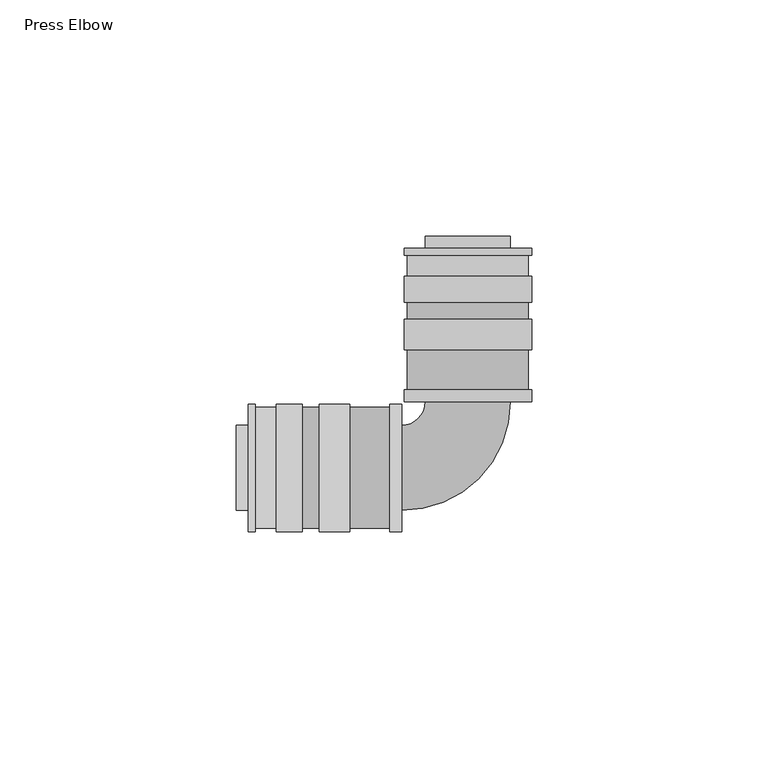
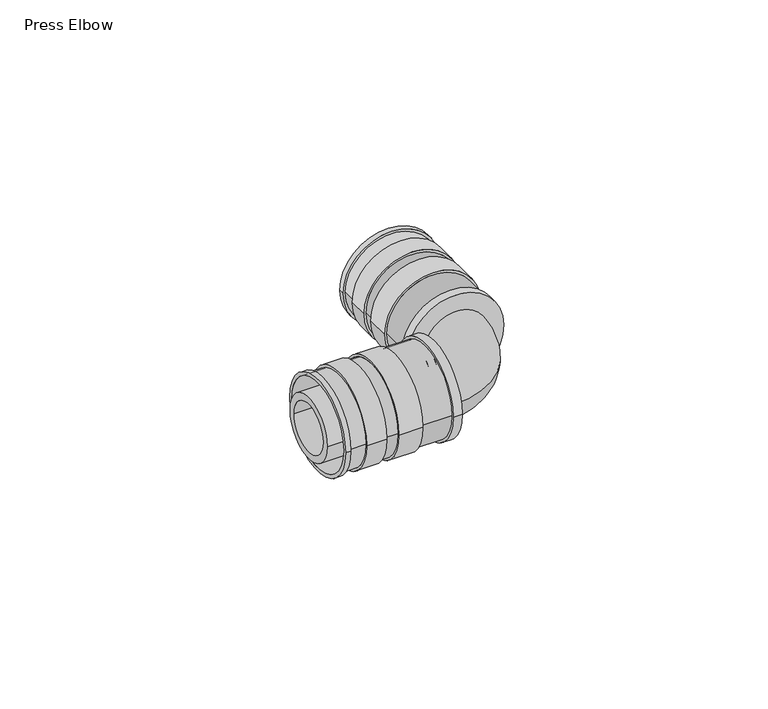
"""IFC4 building model written with IfcOpenShell, lengths in millimetres: pipe fitting geometry, Press Elbow : Superpipe Press Elbow."""

from ifc_helpers import new_model, si_unit, point, frame, origin, origin_2d, place, context, project, spatial, polyline, circle_curve, ellipse_curve, trimmed, segment, composite_curve, outline, extrude, source, transform, mapped, element, save
from ifc_brep_helpers import plane_surface, cylinder_surface, revolved_surface, advanced_brep


def press_elbow_2132446e(model_context):
    return source(origin(), model_context, "Body", "SolidModel", [
        advanced_brep(
        [(-12.8, 16.5, 0.0), (12.8, 16.5, 0.0), (12.5, 16.5, 0.0), (-12.5, 16.5, 0.0), (13.5, 46.5, 0.0), (-13.5, 46.5, 0.0), (12.5, 46.5, 0.0), (-12.5, 46.5, 0.0), (13.5, 45.0, 0.0), (-13.5, 45.0, 0.0), (13.5, 25.0, 0.0), (-13.5, 25.0, 0.0), (-13.5, 31.5, 0.0), (13.5, 31.5, 0.0), (13.5, 35.0, 0.0), (-13.5, 35.0, 0.0), (-13.5, 40.5, 0.0), (13.5, 40.5, 0.0), (12.8, 25.0, 0.0), (-12.8, 25.0, 0.0), (12.8, 31.5, 0.0), (-12.8, 31.5, 0.0), (12.8, 35.0, 0.0), (-12.8, 35.0, 0.0), (-12.8, 45.0, 0.0), (12.8, 45.0, 0.0), (-12.8, 40.5, 0.0), (12.8, 40.5, 0.0)],
        [
            (0, 1, circle_curve(frame((0.0, 16.5, 0.0), z_axis=(0.0, -1.0, 0.0), x_axis=(-1.0, 0.0, 0.0)), 12.8)),
            (1, 0, circle_curve(frame((0.0, 16.5, 0.0), z_axis=(0.0, -1.0, 0.0), x_axis=(-1.0, 0.0, 0.0)), 12.8)),
            (2, 3, circle_curve(frame((0.0, 16.5, 0.0), z_axis=(0.0, 1.0, 0.0), x_axis=(-1.0, 0.0, 0.0)), 12.5)),
            (3, 2, circle_curve(frame((0.0, 16.5, 0.0), z_axis=(0.0, 1.0, 0.0), x_axis=(-1.0, 0.0, 0.0)), 12.5)),
            (4, 5, circle_curve(frame((0.0, 46.5, 0.0), z_axis=(0.0, 1.0, 0.0), x_axis=(-1.0, 0.0, 0.0)), 13.5)),
            (5, 4, circle_curve(frame((0.0, 46.5, 0.0), z_axis=(0.0, 1.0, 0.0), x_axis=(-1.0, 0.0, 0.0)), 13.5)),
            (6, 7, circle_curve(frame((0.0, 46.5, 0.0), z_axis=(0.0, -1.0, 0.0), x_axis=(-1.0, 0.0, 0.0)), 12.5)),
            (7, 6, circle_curve(frame((0.0, 46.5, 0.0), z_axis=(0.0, -1.0, 0.0), x_axis=(-1.0, 0.0, 0.0)), 12.5)),
            (4, 8),
            (8, 9, circle_curve(frame((0.0, 45.0, 0.0), z_axis=(0.0, 1.0, 0.0), x_axis=(-1.0, 0.0, 0.0)), 13.5)),
            (9, 5),
            (10, 11, circle_curve(frame((0.0, 25.0, 0.0), z_axis=(0.0, 1.0, 0.0), x_axis=(-1.0, 0.0, 0.0)), 13.5)),
            (11, 12),
            (12, 13, circle_curve(frame((0.0, 31.5, 0.0), z_axis=(0.0, -1.0, 0.0), x_axis=(-1.0, 0.0, 0.0)), 13.5)),
            (13, 10),
            (14, 15, circle_curve(frame((0.0, 35.0, 0.0), z_axis=(0.0, 1.0, 0.0), x_axis=(-1.0, 0.0, 0.0)), 13.5)),
            (15, 16),
            (16, 17, circle_curve(frame((0.0, 40.5, 0.0), z_axis=(0.0, -1.0, 0.0), x_axis=(-1.0, 0.0, 0.0)), 13.5)),
            (17, 14),
            (9, 8, circle_curve(frame((0.0, 45.0, 0.0), z_axis=(0.0, 1.0, 0.0), x_axis=(-1.0, 0.0, 0.0)), 13.5)),
            (11, 10, circle_curve(frame((0.0, 25.0, 0.0), z_axis=(0.0, 1.0, 0.0), x_axis=(-1.0, 0.0, 0.0)), 13.5)),
            (13, 12, circle_curve(frame((0.0, 31.5, 0.0), z_axis=(0.0, -1.0, 0.0), x_axis=(-1.0, 0.0, 0.0)), 13.5)),
            (15, 14, circle_curve(frame((0.0, 35.0, 0.0), z_axis=(0.0, 1.0, 0.0), x_axis=(-1.0, 0.0, 0.0)), 13.5)),
            (17, 16, circle_curve(frame((0.0, 40.5, 0.0), z_axis=(0.0, -1.0, 0.0), x_axis=(-1.0, 0.0, 0.0)), 13.5)),
            (3, 7),
            (6, 2),
            (18, 19, circle_curve(frame((0.0, 25.0, 0.0), z_axis=(0.0, 1.0, 0.0), x_axis=(-1.0, 0.0, 0.0)), 12.8)),
            (19, 18, circle_curve(frame((0.0, 25.0, 0.0), z_axis=(0.0, 1.0, 0.0), x_axis=(-1.0, 0.0, 0.0)), 12.8)),
            (18, 1),
            (0, 19),
            (20, 21, circle_curve(frame((0.0, 31.5, 0.0), z_axis=(0.0, -1.0, 0.0), x_axis=(-1.0, 0.0, 0.0)), 12.8)),
            (21, 20, circle_curve(frame((0.0, 31.5, 0.0), z_axis=(0.0, -1.0, 0.0), x_axis=(-1.0, 0.0, 0.0)), 12.8)),
            (22, 23, circle_curve(frame((0.0, 35.0, 0.0), z_axis=(0.0, 1.0, 0.0), x_axis=(-1.0, 0.0, 0.0)), 12.8)),
            (23, 22, circle_curve(frame((0.0, 35.0, 0.0), z_axis=(0.0, 1.0, 0.0), x_axis=(-1.0, 0.0, 0.0)), 12.8)),
            (21, 23),
            (22, 20),
            (24, 25, circle_curve(frame((0.0, 45.0, 0.0), z_axis=(0.0, 1.0, 0.0), x_axis=(1.0, 0.0, 0.0)), 12.8)),
            (25, 24, circle_curve(frame((0.0, 45.0, 0.0), z_axis=(0.0, 1.0, 0.0), x_axis=(1.0, 0.0, 0.0)), 12.8)),
            (26, 27, circle_curve(frame((0.0, 40.5, 0.0), z_axis=(0.0, -1.0, 0.0), x_axis=(1.0, 0.0, 0.0)), 12.8)),
            (27, 26, circle_curve(frame((0.0, 40.5, 0.0), z_axis=(0.0, -1.0, 0.0), x_axis=(1.0, 0.0, 0.0)), 12.8)),
            (25, 27),
            (26, 24),
        ],
        [
            plane_surface(frame((0.0, 16.5, 0.0), z_axis=(0.0, -1.0, 0.0), x_axis=(0.0, 0.0, 1.0))),
            plane_surface(frame((0.0, 46.5, 0.0), z_axis=(0.0, 1.0, 0.0), x_axis=(0.0, 0.0, 1.0))),
            cylinder_surface(frame((0.0, 16.5, 0.0), z_axis=(0.0, -1.0, 0.0), x_axis=(-1.0, 0.0, 0.0)), 13.5),
            revolved_surface(polyline([(-12.5, 46.5, 0.0), (-12.5, 16.5, 0.0)]), (0.0, 16.5, 0.0), (0.0, 1.0, 0.0)),
            plane_surface(frame((0.0, 25.0, 0.0), z_axis=(0.0, -1.0, 0.0), x_axis=(0.0, 0.0, 1.0))),
            cylinder_surface(frame((0.0, 16.5, 0.0), z_axis=(0.0, 1.0, 0.0), x_axis=(-1.0, 0.0, 0.0)), 12.8),
            plane_surface(frame((0.0, 31.5, 0.0), z_axis=(0.0, 1.0, 0.0), x_axis=(0.0, 0.0, 1.0))),
            plane_surface(frame((0.0, 35.0, 0.0), z_axis=(0.0, -1.0, 0.0), x_axis=(0.0, 0.0, 1.0))),
            cylinder_surface(frame((0.0, 31.5, 0.0), z_axis=(0.0, 1.0, 0.0), x_axis=(-1.0, 0.0, 0.0)), 12.8),
            plane_surface(frame((0.0, 45.0, 0.0), z_axis=(0.0, -1.0, 0.0), x_axis=(0.0, 0.0, 1.0))),
            plane_surface(frame((0.0, 40.5, 0.0), z_axis=(0.0, 1.0, 0.0), x_axis=(0.0, 0.0, 1.0))),
            cylinder_surface(frame((0.0, 45.0, 0.0), z_axis=(0.0, -1.0, 0.0), x_axis=(1.0, 0.0, 0.0)), 12.8),
        ],
        [
            (0, [[1, 2], [3, 4]]),
            (1, [[5, 6], [7, 8]]),
            (2, [[-5, 9, 10, 11]]),
            (2, [[12, 13, 14, 15]]),
            (2, [[16, 17, 18, 19]]),
            (2, [[-6, -11, 20, -9]]),
            (2, [[21, -15, 22, -13]]),
            (2, [[23, -19, 24, -17]]),
            (3, [[-4, 25, -7, 26]]),
            (3, [[-3, -26, -8, -25]]),
            (4, [[-12, -21], [27, 28]]),
            (5, [[-27, 29, -1, 30]]),
            (5, [[-28, -30, -2, -29]]),
            (6, [[-14, -22], [31, 32]]),
            (7, [[-16, -23], [33, 34]]),
            (8, [[-32, 35, -33, 36]]),
            (8, [[-31, -36, -34, -35]]),
            (9, [[-10, -20], [37, 38]]),
            (10, [[-18, -24], [39, 40]]),
            (11, [[-38, 41, -39, 42]]),
            (11, [[-37, -42, -40, -41]]),
        ],
    ),
        advanced_brep(
        [(-16.5, -12.8, 0.0), (-16.5, 12.8, 0.0), (-16.5, 12.5, 0.0), (-16.5, -12.5, 0.0), (-46.5, 13.5, 0.0), (-46.5, -13.5, 0.0), (-46.5, 12.5, 0.0), (-46.5, -12.5, 0.0), (-45.0, 13.5, 0.0), (-45.0, -13.5, 0.0), (-31.5, -13.5, 0.0), (-31.5, 13.5, 0.0), (-25.0, 13.5, 0.0), (-25.0, -13.5, 0.0), (-35.0, 13.5, 0.0), (-35.0, -13.5, 0.0), (-40.5, -13.5, 0.0), (-40.5, 13.5, 0.0), (-31.5, 12.8, 0.0), (-31.5, -12.8, 0.0), (-35.0, 12.8, 0.0), (-35.0, -12.8, 0.0), (-45.0, -12.8, 0.0), (-45.0, 12.8, 0.0), (-40.5, -12.8, 0.0), (-40.5, 12.8, 0.0), (-25.0, 12.8, 0.0), (-25.0, -12.8, 0.0)],
        [
            (0, 1, circle_curve(frame((-16.5, 0.0, 0.0), z_axis=(1.0, 0.0, 0.0), x_axis=(0.0, -1.0, 0.0)), 12.8)),
            (1, 0, circle_curve(frame((-16.5, 0.0, 0.0), z_axis=(1.0, 0.0, 0.0), x_axis=(0.0, -1.0, 0.0)), 12.8)),
            (2, 3, circle_curve(frame((-16.5, 0.0, 0.0), z_axis=(-1.0, 0.0, 0.0), x_axis=(0.0, -1.0, 0.0)), 12.5)),
            (3, 2, circle_curve(frame((-16.5, 0.0, 0.0), z_axis=(-1.0, 0.0, 0.0), x_axis=(0.0, -1.0, 0.0)), 12.5)),
            (4, 5, circle_curve(frame((-46.5, 0.0, 0.0), z_axis=(-1.0, 0.0, 0.0), x_axis=(0.0, -1.0, 0.0)), 13.5)),
            (5, 4, circle_curve(frame((-46.5, 0.0, 0.0), z_axis=(-1.0, 0.0, 0.0), x_axis=(0.0, -1.0, 0.0)), 13.5)),
            (6, 7, circle_curve(frame((-46.5, 0.0, 0.0), z_axis=(1.0, 0.0, 0.0), x_axis=(0.0, -1.0, 0.0)), 12.5)),
            (7, 6, circle_curve(frame((-46.5, 0.0, 0.0), z_axis=(1.0, 0.0, 0.0), x_axis=(0.0, -1.0, 0.0)), 12.5)),
            (3, 7),
            (6, 2),
            (4, 8),
            (8, 9, circle_curve(frame((-45.0, 0.0, 0.0), z_axis=(-1.0, 0.0, 0.0), x_axis=(0.0, -1.0, 0.0)), 13.5)),
            (9, 5),
            (10, 11, circle_curve(frame((-31.5, 0.0, 0.0), z_axis=(1.0, 0.0, 0.0), x_axis=(0.0, -1.0, 0.0)), 13.5)),
            (11, 12),
            (12, 13, circle_curve(frame((-25.0, 0.0, 0.0), z_axis=(-1.0, 0.0, 0.0), x_axis=(0.0, -1.0, 0.0)), 13.5)),
            (13, 10),
            (14, 15, circle_curve(frame((-35.0, 0.0, 0.0), z_axis=(-1.0, 0.0, 0.0), x_axis=(0.0, -1.0, 0.0)), 13.5)),
            (15, 16),
            (16, 17, circle_curve(frame((-40.5, 0.0, 0.0), z_axis=(1.0, 0.0, 0.0), x_axis=(0.0, -1.0, 0.0)), 13.5)),
            (17, 14),
            (9, 8, circle_curve(frame((-45.0, 0.0, 0.0), z_axis=(-1.0, 0.0, 0.0), x_axis=(0.0, -1.0, 0.0)), 13.5)),
            (11, 10, circle_curve(frame((-31.5, 0.0, 0.0), z_axis=(1.0, 0.0, 0.0), x_axis=(0.0, -1.0, 0.0)), 13.5)),
            (13, 12, circle_curve(frame((-25.0, 0.0, 0.0), z_axis=(-1.0, 0.0, 0.0), x_axis=(0.0, -1.0, 0.0)), 13.5)),
            (15, 14, circle_curve(frame((-35.0, 0.0, 0.0), z_axis=(-1.0, 0.0, 0.0), x_axis=(0.0, -1.0, 0.0)), 13.5)),
            (17, 16, circle_curve(frame((-40.5, 0.0, 0.0), z_axis=(1.0, 0.0, 0.0), x_axis=(0.0, -1.0, 0.0)), 13.5)),
            (18, 19, circle_curve(frame((-31.5, 0.0, 0.0), z_axis=(1.0, 0.0, 0.0), x_axis=(0.0, -1.0, 0.0)), 12.8)),
            (19, 18, circle_curve(frame((-31.5, 0.0, 0.0), z_axis=(1.0, 0.0, 0.0), x_axis=(0.0, -1.0, 0.0)), 12.8)),
            (20, 21, circle_curve(frame((-35.0, 0.0, 0.0), z_axis=(-1.0, 0.0, 0.0), x_axis=(0.0, -1.0, 0.0)), 12.8)),
            (21, 20, circle_curve(frame((-35.0, 0.0, 0.0), z_axis=(-1.0, 0.0, 0.0), x_axis=(0.0, -1.0, 0.0)), 12.8)),
            (19, 21),
            (20, 18),
            (22, 23, circle_curve(frame((-45.0, 0.0, 0.0), z_axis=(-1.0, 0.0, 0.0), x_axis=(0.0, 1.0, 0.0)), 12.8)),
            (23, 22, circle_curve(frame((-45.0, 0.0, 0.0), z_axis=(-1.0, 0.0, 0.0), x_axis=(0.0, 1.0, 0.0)), 12.8)),
            (24, 25, circle_curve(frame((-40.5, 0.0, 0.0), z_axis=(1.0, 0.0, 0.0), x_axis=(0.0, 1.0, 0.0)), 12.8)),
            (25, 24, circle_curve(frame((-40.5, 0.0, 0.0), z_axis=(1.0, 0.0, 0.0), x_axis=(0.0, 1.0, 0.0)), 12.8)),
            (23, 25),
            (24, 22),
            (26, 27, circle_curve(frame((-25.0, 0.0, 0.0), z_axis=(-1.0, 0.0, 0.0), x_axis=(0.0, -1.0, 0.0)), 12.8)),
            (27, 26, circle_curve(frame((-25.0, 0.0, 0.0), z_axis=(-1.0, 0.0, 0.0), x_axis=(0.0, -1.0, 0.0)), 12.8)),
            (26, 1),
            (0, 27),
        ],
        [
            plane_surface(frame((-16.5, 0.0, 0.0), z_axis=(1.0, 0.0, 0.0), x_axis=(0.0, 0.0, 1.0))),
            plane_surface(frame((-46.5, 0.0, 0.0), z_axis=(-1.0, 0.0, 0.0), x_axis=(0.0, 0.0, 1.0))),
            revolved_surface(polyline([(-46.5, -12.5, 0.0), (-16.5, -12.5, 0.0)]), (-16.5, 0.0, 0.0), (-1.0, 0.0, 0.0)),
            cylinder_surface(frame((-16.5, 0.0, 0.0), z_axis=(1.0, 0.0, 0.0), x_axis=(0.0, -1.0, 0.0)), 13.5),
            plane_surface(frame((-31.5, 0.0, 0.0), z_axis=(-1.0, 0.0, 0.0), x_axis=(0.0, 0.0, 1.0))),
            plane_surface(frame((-35.0, 0.0, 0.0), z_axis=(1.0, 0.0, 0.0), x_axis=(0.0, 0.0, 1.0))),
            cylinder_surface(frame((-31.5, 0.0, 0.0), z_axis=(-1.0, 0.0, 0.0), x_axis=(0.0, -1.0, 0.0)), 12.8),
            plane_surface(frame((-45.0, 0.0, 0.0), z_axis=(1.0, 0.0, 0.0), x_axis=(0.0, 0.0, 1.0))),
            plane_surface(frame((-40.5, 0.0, 0.0), z_axis=(-1.0, 0.0, 0.0), x_axis=(0.0, 0.0, 1.0))),
            cylinder_surface(frame((-45.0, 0.0, 0.0), z_axis=(1.0, 0.0, 0.0), x_axis=(0.0, 1.0, 0.0)), 12.8),
            plane_surface(frame((-25.0, 0.0, 0.0), z_axis=(1.0, 0.0, 0.0), x_axis=(0.0, 0.0, 1.0))),
            cylinder_surface(frame((-16.5, 0.0, 0.0), z_axis=(-1.0, 0.0, 0.0), x_axis=(0.0, -1.0, 0.0)), 12.8),
        ],
        [
            (0, [[1, 2], [3, 4]]),
            (1, [[5, 6], [7, 8]]),
            (2, [[-4, 9, -7, 10]]),
            (2, [[-3, -10, -8, -9]]),
            (3, [[-5, 11, 12, 13]]),
            (3, [[14, 15, 16, 17]]),
            (3, [[18, 19, 20, 21]]),
            (3, [[-6, -13, 22, -11]]),
            (3, [[23, -17, 24, -15]]),
            (3, [[25, -21, 26, -19]]),
            (4, [[-14, -23], [27, 28]]),
            (5, [[-18, -25], [29, 30]]),
            (6, [[-28, 31, -29, 32]]),
            (6, [[-27, -32, -30, -31]]),
            (7, [[-12, -22], [33, 34]]),
            (8, [[-20, -26], [35, 36]]),
            (9, [[-34, 37, -35, 38]]),
            (9, [[-33, -38, -36, -37]]),
            (10, [[-16, -24], [39, 40]]),
            (11, [[-39, 41, -1, 42]]),
            (11, [[-40, -42, -2, -41]]),
        ],
    ),
        extrude(outline(composite_curve([segment(trimmed(circle_curve(origin_2d(), 9.0), [point((0.0, 9.0))], [point((0.0, -9.0))], False, "CARTESIAN"), True, "CONTINUOUS"), segment(trimmed(circle_curve(origin_2d(), 9.0), [point((0.0, -9.0))], [point((0.0, 9.0))], False, "CARTESIAN"), True, "CONTINUOUS")], self_intersect=False), holes=[composite_curve([segment(trimmed(circle_curve(origin_2d(), 7.0), [point((0.0, 7.0))], [point((0.0, -7.0))], True, "CARTESIAN"), True, "CONTINUOUS"), segment(trimmed(circle_curve(origin_2d(), 7.0), [point((0.0, -7.0))], [point((0.0, 7.0))], True, "CARTESIAN"), True, "CONTINUOUS")], self_intersect=False)]), frame((0.0, 16.5, 0.0), z_axis=(0.0, 1.0, 0.0), x_axis=(0.0, 0.0, 1.0)), (0.0, 0.0, 1.0), 32.5),
        extrude(outline(composite_curve([segment(trimmed(circle_curve(origin_2d(), 13.5), [point((0.0, 13.5))], [point((0.0, -13.5))], False, "CARTESIAN"), True, "CONTINUOUS"), segment(trimmed(circle_curve(origin_2d(), 13.5), [point((0.0, -13.5))], [point((0.0, 13.5))], False, "CARTESIAN"), True, "CONTINUOUS")], self_intersect=False), holes=[composite_curve([segment(trimmed(circle_curve(origin_2d(), 7.0), [point((0.0, 7.0))], [point((0.0, -7.0))], True, "CARTESIAN"), True, "CONTINUOUS"), segment(trimmed(circle_curve(origin_2d(), 7.0), [point((0.0, -7.0))], [point((0.0, 7.0))], True, "CARTESIAN"), True, "CONTINUOUS")], self_intersect=False)]), frame((0.0, 14.0, 0.0), z_axis=(0.0, 1.0, 0.0), x_axis=(0.0, 0.0, 1.0)), (0.0, 0.0, 1.0), 2.5),
        extrude(outline(composite_curve([segment(trimmed(circle_curve(origin_2d(), 13.5), [point((13.5, 0.0))], [point((-13.5, 0.0))], False, "CARTESIAN"), True, "CONTINUOUS"), segment(trimmed(circle_curve(origin_2d(), 13.5), [point((-13.5, 0.0))], [point((13.5, 0.0))], False, "CARTESIAN"), True, "CONTINUOUS")], self_intersect=False), holes=[composite_curve([segment(trimmed(circle_curve(origin_2d(), 7.0), [point((7.0, 0.0))], [point((-7.0, 0.0))], True, "CARTESIAN"), True, "CONTINUOUS"), segment(trimmed(circle_curve(origin_2d(), 7.0), [point((-7.0, 0.0))], [point((7.0, 0.0))], True, "CARTESIAN"), True, "CONTINUOUS")], self_intersect=False)]), frame((-16.5, 0.0, 0.0), z_axis=(1.0, 0.0, 0.0), x_axis=(0.0, 1.0, 0.0)), (0.0, 0.0, 1.0), 2.5),
        extrude(outline(composite_curve([segment(trimmed(circle_curve(origin_2d(), 9.0), [point((9.0, 0.0))], [point((-9.0, 0.0))], False, "CARTESIAN"), True, "CONTINUOUS"), segment(trimmed(circle_curve(origin_2d(), 9.0), [point((-9.0, 0.0))], [point((9.0, 0.0))], False, "CARTESIAN"), True, "CONTINUOUS")], self_intersect=False), holes=[composite_curve([segment(trimmed(circle_curve(origin_2d(), 7.0), [point((7.0, 0.0))], [point((-7.0, 0.0))], True, "CARTESIAN"), True, "CONTINUOUS"), segment(trimmed(circle_curve(origin_2d(), 7.0), [point((-7.0, 0.0))], [point((7.0, 0.0))], True, "CARTESIAN"), True, "CONTINUOUS")], self_intersect=False)]), frame((-49.0, 0.0, 0.0), z_axis=(1.0, 0.0, 0.0), x_axis=(0.0, 1.0, 0.0)), (0.0, 0.0, 1.0), 32.5),
        advanced_brep(
        [(-14.0, -7.0, 0.0), (-14.0, 7.0, 0.0), (7.0, 14.0, 0.0), (-7.0, 14.0, 0.0)],
        [
            (0, 1, circle_curve(frame((-14.0, 0.0, 0.0), z_axis=(-1.0, 0.0, 0.0), x_axis=(0.0, 1.0, 0.0)), 7.0)),
            (1, 0, circle_curve(frame((-14.0, 0.0, 0.0), z_axis=(-1.0, 0.0, 0.0), x_axis=(0.0, 1.0, 0.0)), 7.0)),
            (2, 3, circle_curve(frame((0.0, 14.0, 0.0), z_axis=(0.0, 1.0, 0.0), x_axis=(-1.0, 0.0, 0.0)), 7.0)),
            (3, 2, circle_curve(frame((0.0, 14.0, 0.0), z_axis=(0.0, 1.0, 0.0), x_axis=(-1.0, 0.0, 0.0)), 7.0)),
            (3, 1, circle_curve(frame((-14.0, 14.0, 0.0), z_axis=(0.0, 0.0, -1.0), x_axis=(0.0, -1.0, 0.0)), 7.0)),
            (0, 2, circle_curve(frame((-14.0, 14.0, 0.0), z_axis=(0.0, 0.0, 1.0), x_axis=(0.0, -1.0, 0.0)), 21.0)),
        ],
        [
            plane_surface(frame((-14.0, 0.0, 0.0), z_axis=(-1.0, 0.0, 0.0), x_axis=(0.0, 0.0, 1.0))),
            plane_surface(frame((0.0, 14.0, 0.0), z_axis=(0.0, 1.0, 0.0), x_axis=(0.0, 0.0, 1.0))),
            revolved_surface(trimmed(ellipse_curve(frame((-14.0, 0.0, 0.0), z_axis=(-1.0, 0.0, 0.0), x_axis=(0.0, 1.0, 0.0)), 7.0, 7.0), [point((-14.0, -7.0, 0.0))], [point((-14.0, 7.0, 0.0))], True, "CARTESIAN"), (-14.0, 14.0, 0.0), (0.0, 0.0, 1.0)),
            revolved_surface(trimmed(ellipse_curve(frame((-14.0, 0.0, 0.0), z_axis=(-1.0, 0.0, 0.0), x_axis=(0.0, 1.0, 0.0)), 7.0, 7.0), [point((-14.0, 7.0, 0.0))], [point((-14.0, -7.0, 0.0))], True, "CARTESIAN"), (-14.0, 14.0, 0.0), (0.0, 0.0, 1.0)),
        ],
        [
            (0, [[1, 2]]),
            (1, [[3, 4]]),
            (2, [[5, -1, 6, -4]]),
            (3, [[-6, -2, -5, -3]]),
        ],
    ),
        advanced_brep(
        [(-14.0, -9.0, 0.0), (-14.0, 9.0, 0.0), (9.0, 14.0, 0.0), (-9.0, 14.0, 0.0)],
        [
            (0, 1, circle_curve(frame((-14.0, 0.0, 0.0), z_axis=(-1.0, 0.0, 0.0), x_axis=(0.0, 1.0, 0.0)), 9.0)),
            (1, 0, circle_curve(frame((-14.0, 0.0, 0.0), z_axis=(-1.0, 0.0, 0.0), x_axis=(0.0, 1.0, 0.0)), 9.0)),
            (2, 3, circle_curve(frame((0.0, 14.0, 0.0), z_axis=(0.0, 1.0, 0.0), x_axis=(-1.0, 0.0, 0.0)), 9.0)),
            (3, 2, circle_curve(frame((0.0, 14.0, 0.0), z_axis=(0.0, 1.0, 0.0), x_axis=(-1.0, 0.0, 0.0)), 9.0)),
            (3, 1, circle_curve(frame((-14.0, 14.0, 0.0), z_axis=(0.0, 0.0, -1.0), x_axis=(0.0, -1.0, 0.0)), 5.0)),
            (0, 2, circle_curve(frame((-14.0, 14.0, 0.0), z_axis=(0.0, 0.0, 1.0), x_axis=(0.0, -1.0, 0.0)), 23.0)),
        ],
        [
            plane_surface(frame((-14.0, 0.0, 0.0), z_axis=(-1.0, 0.0, 0.0), x_axis=(0.0, 0.0, 1.0))),
            plane_surface(frame((0.0, 14.0, 0.0), z_axis=(0.0, 1.0, 0.0), x_axis=(0.0, 0.0, 1.0))),
            revolved_surface(trimmed(ellipse_curve(frame((-14.0, 0.0, 0.0), z_axis=(-1.0, 0.0, 0.0), x_axis=(0.0, 1.0, 0.0)), 9.0, 9.0), [point((-14.0, -9.0, 0.0))], [point((-14.0, 9.0, 0.0))], True, "CARTESIAN"), (-14.0, 14.0, 0.0), (0.0, 0.0, 1.0)),
            revolved_surface(trimmed(ellipse_curve(frame((-14.0, 0.0, 0.0), z_axis=(-1.0, 0.0, 0.0), x_axis=(0.0, 1.0, 0.0)), 9.0, 9.0), [point((-14.0, 9.0, 0.0))], [point((-14.0, -9.0, 0.0))], True, "CARTESIAN"), (-14.0, 14.0, 0.0), (0.0, 0.0, 1.0)),
        ],
        [
            (0, [[1, 2]]),
            (1, [[3, 4]]),
            (2, [[5, -1, 6, -4]]),
            (3, [[-6, -2, -5, -3]]),
        ],
    ),
    ])


if __name__ == "__main__":
    model = new_model("IFC4")
    model_context = context("Model", 3, world=origin())
    ifc_project = project(units=[si_unit("LENGTHUNIT", "METRE", prefix="MILLI")], contexts=[model_context])
    site = spatial("IfcSite", under=ifc_project)
    building = spatial("IfcBuilding", under=site)
    placement = place(None, origin())
    press_elbow_shape = press_elbow_2132446e(model_context)
    element("IfcPipeFitting", 1, ObjectType="Press Elbow : Superpipe Press Elbow", at=placement, inside=building, context=model_context, shape_type="MappedRepresentation", body=[
        mapped(press_elbow_shape, transform((0.0, 0.0, 0.0), x_axis=(1.0, 0.0, 0.0), y_axis=(0.0, 1.0, 0.0), z_axis=(0.0, 0.0, 1.0))),
    ])
    save(model, "model.ifc")
